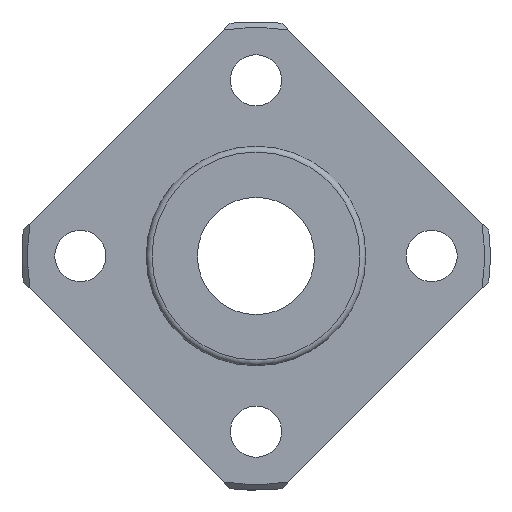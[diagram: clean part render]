
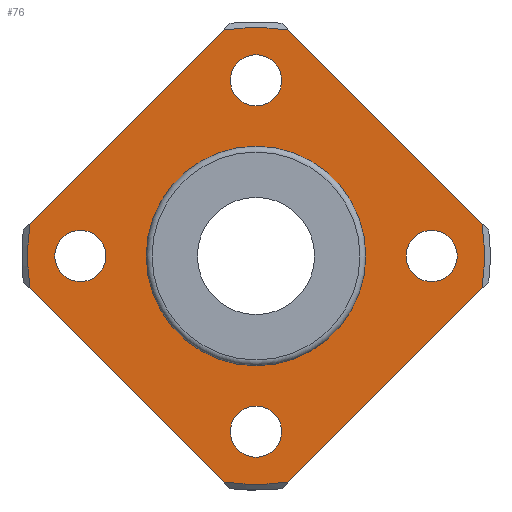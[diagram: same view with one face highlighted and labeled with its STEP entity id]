
A CAD part, left-side view. The second image highlights one B-rep face of the part: STEP entity #76.
In plain terms, the highlighted planar face has unit normal (-1, 0, 0).
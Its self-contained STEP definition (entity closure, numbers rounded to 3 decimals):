
#76=ADVANCED_FACE('',(#115,#116,#117,#118,#119,#120),#121,.T.);
#115=FACE_OUTER_BOUND('',#215,.T.);
#116=FACE_BOUND('',#216,.T.);
#117=FACE_BOUND('',#217,.T.);
#118=FACE_BOUND('',#218,.T.);
#119=FACE_BOUND('',#219,.T.);
#120=FACE_BOUND('',#220,.T.);
#121=PLANE('',#221);
#215=EDGE_LOOP('',(#317,#318,#319,#320,#321,#322,#323,#324));
#216=EDGE_LOOP('',(#325));
#217=EDGE_LOOP('',(#326));
#218=EDGE_LOOP('',(#327));
#219=EDGE_LOOP('',(#328));
#220=EDGE_LOOP('',(#329));
#221=AXIS2_PLACEMENT_3D('',#330,#331,#332);
#317=ORIENTED_EDGE('',*,*,#564,.T.);
#318=ORIENTED_EDGE('',*,*,#565,.T.);
#319=ORIENTED_EDGE('',*,*,#566,.T.);
#320=ORIENTED_EDGE('',*,*,#567,.T.);
#321=ORIENTED_EDGE('',*,*,#568,.T.);
#322=ORIENTED_EDGE('',*,*,#569,.T.);
#323=ORIENTED_EDGE('',*,*,#570,.T.);
#324=ORIENTED_EDGE('',*,*,#571,.T.);
#325=ORIENTED_EDGE('',*,*,#563,.F.);
#326=ORIENTED_EDGE('',*,*,#572,.T.);
#327=ORIENTED_EDGE('',*,*,#573,.T.);
#328=ORIENTED_EDGE('',*,*,#574,.T.);
#329=ORIENTED_EDGE('',*,*,#575,.T.);
#330=CARTESIAN_POINT('',(-5.0,0.,11.475));
#331=DIRECTION('',(-1.0,0.,0.));
#332=DIRECTION('',(0.,-1.0,0.));
#563=EDGE_CURVE('',#635,#635,#636,.T.);
#564=EDGE_CURVE('',#637,#638,#639,.T.);
#565=EDGE_CURVE('',#638,#640,#641,.T.);
#566=EDGE_CURVE('',#640,#642,#643,.T.);
#567=EDGE_CURVE('',#642,#644,#645,.T.);
#568=EDGE_CURVE('',#644,#646,#647,.T.);
#569=EDGE_CURVE('',#646,#648,#649,.T.);
#570=EDGE_CURVE('',#648,#650,#651,.T.);
#571=EDGE_CURVE('',#650,#637,#652,.T.);
#572=EDGE_CURVE('',#653,#653,#654,.T.);
#573=EDGE_CURVE('',#655,#655,#656,.T.);
#574=EDGE_CURVE('',#657,#657,#658,.T.);
#575=EDGE_CURVE('',#659,#659,#660,.T.);
#635=VERTEX_POINT('',#761);
#636=CIRCLE('',#762,7.35);
#637=VERTEX_POINT('',#763);
#638=VERTEX_POINT('',#764);
#639=LINE('',#765,#766);
#640=VERTEX_POINT('',#767);
#641=CIRCLE('',#768,15.6);
#642=VERTEX_POINT('',#769);
#643=LINE('',#770,#771);
#644=VERTEX_POINT('',#772);
#645=CIRCLE('',#773,15.6);
#646=VERTEX_POINT('',#774);
#647=LINE('',#775,#776);
#648=VERTEX_POINT('',#777);
#649=CIRCLE('',#778,15.6);
#650=VERTEX_POINT('',#779);
#651=LINE('',#780,#781);
#652=CIRCLE('',#782,15.6);
#653=VERTEX_POINT('',#783);
#654=CIRCLE('',#784,1.75);
#655=VERTEX_POINT('',#785);
#656=CIRCLE('',#786,1.75);
#657=VERTEX_POINT('',#787);
#658=CIRCLE('',#788,1.75);
#659=VERTEX_POINT('',#789);
#660=CIRCLE('',#790,1.75);
#761=CARTESIAN_POINT('',(-5.0,0.,7.35));
#762=AXIS2_PLACEMENT_3D('',#1048,#1049,#1050);
#763=CARTESIAN_POINT('',(-5.0,-2.239,-15.438));
#764=CARTESIAN_POINT('',(-5.0,-15.438,-2.239));
#765=CARTESIAN_POINT('',(-5.0,-8.176,-9.501));
#766=VECTOR('',#1051,1.0);
#767=CARTESIAN_POINT('',(-5.0,-15.438,2.239));
#768=AXIS2_PLACEMENT_3D('',#1052,#1053,#1054);
#769=CARTESIAN_POINT('',(-5.0,-2.239,15.438));
#770=CARTESIAN_POINT('',(-5.0,-9.501,8.176));
#771=VECTOR('',#1055,1.0);
#772=CARTESIAN_POINT('',(-5.0,2.239,15.438));
#773=AXIS2_PLACEMENT_3D('',#1056,#1057,#1058);
#774=CARTESIAN_POINT('',(-5.0,15.438,2.239));
#775=CARTESIAN_POINT('',(-5.0,2.439,15.239));
#776=VECTOR('',#1059,1.0);
#777=CARTESIAN_POINT('',(-5.0,15.438,-2.239));
#778=AXIS2_PLACEMENT_3D('',#1060,#1061,#1062);
#779=CARTESIAN_POINT('',(-5.0,2.239,-15.438));
#780=CARTESIAN_POINT('',(-5.0,15.239,-2.439));
#781=VECTOR('',#1063,1.0);
#782=AXIS2_PLACEMENT_3D('',#1064,#1065,#1066);
#783=CARTESIAN_POINT('',(-5.0,-1.75,12.0));
#784=AXIS2_PLACEMENT_3D('',#1067,#1068,#1069);
#785=CARTESIAN_POINT('',(-5.0,-1.75,-12.0));
#786=AXIS2_PLACEMENT_3D('',#1070,#1071,#1072);
#787=CARTESIAN_POINT('',(-5.0,10.25,0.));
#788=AXIS2_PLACEMENT_3D('',#1073,#1074,#1075);
#789=CARTESIAN_POINT('',(-5.0,-13.75,0.));
#790=AXIS2_PLACEMENT_3D('',#1076,#1077,#1078);
#1048=CARTESIAN_POINT('',(-5.0,0.,0.));
#1049=DIRECTION('',(-1.0,0.,0.));
#1050=DIRECTION('',(0.,0.0,1.0));
#1051=DIRECTION('',(0.,-0.707,0.707));
#1052=CARTESIAN_POINT('',(-5.0,0.,0.));
#1053=DIRECTION('',(-1.0,0.,0.));
#1054=DIRECTION('',(0.,0.0,1.0));
#1055=DIRECTION('',(0.,0.707,0.707));
#1056=CARTESIAN_POINT('',(-5.0,0.,0.));
#1057=DIRECTION('',(-1.0,0.,0.));
#1058=DIRECTION('',(0.,0.0,1.0));
#1059=DIRECTION('',(0.,0.707,-0.707));
#1060=CARTESIAN_POINT('',(-5.0,0.,0.));
#1061=DIRECTION('',(-1.0,0.,0.));
#1062=DIRECTION('',(0.,0.0,1.0));
#1063=DIRECTION('',(0.,-0.707,-0.707));
#1064=CARTESIAN_POINT('',(-5.0,0.,0.));
#1065=DIRECTION('',(-1.0,0.,0.));
#1066=DIRECTION('',(0.,0.0,1.0));
#1067=CARTESIAN_POINT('',(-5.0,0.,12.0));
#1068=DIRECTION('',(1.0,0.,0.));
#1069=DIRECTION('',(0.,1.0,0.));
#1070=CARTESIAN_POINT('',(-5.0,0.,-12.0));
#1071=DIRECTION('',(1.0,0.,0.));
#1072=DIRECTION('',(0.,1.0,0.));
#1073=CARTESIAN_POINT('',(-5.0,12.0,0.));
#1074=DIRECTION('',(1.0,0.,0.));
#1075=DIRECTION('',(0.,1.0,0.));
#1076=CARTESIAN_POINT('',(-5.0,-12.0,0.));
#1077=DIRECTION('',(1.0,0.,0.));
#1078=DIRECTION('',(0.,1.0,0.));
